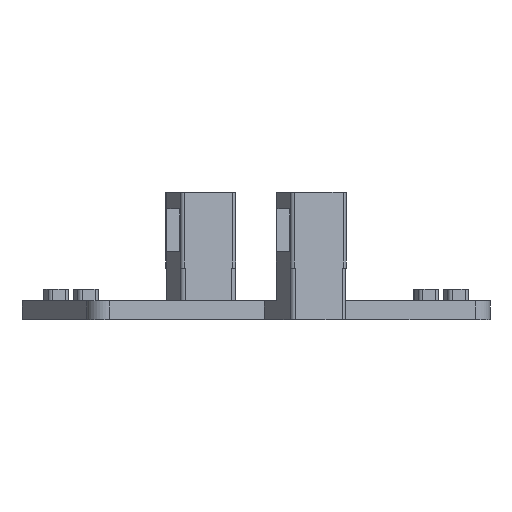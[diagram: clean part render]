
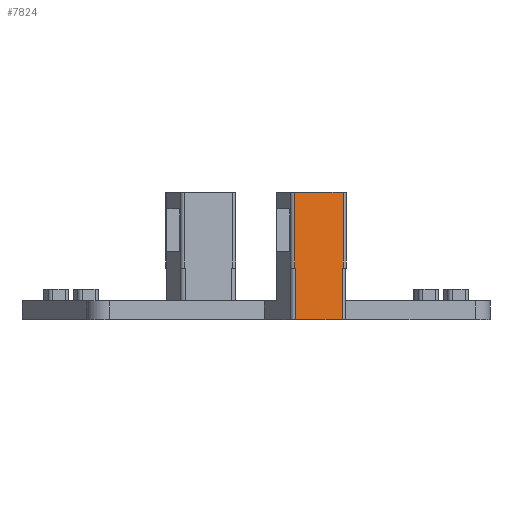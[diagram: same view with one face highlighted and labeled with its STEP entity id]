
A CAD part, front view. The second image highlights one B-rep face of the part: STEP entity #7824.
In plain terms, the highlighted planar face has unit normal (0.208, -0.978, 0).
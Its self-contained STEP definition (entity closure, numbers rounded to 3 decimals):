
#100 = PLANE('',#101);
#101 = AXIS2_PLACEMENT_3D('',#102,#103,#104);
#102 = CARTESIAN_POINT('',(9.299,-24.946,18.8));
#103 = DIRECTION('',(0.,0.,1.));
#104 = DIRECTION('',(0.978,0.208,0.));
#2364 = VERTEX_POINT('',#2365);
#2365 = CARTESIAN_POINT('',(30.956,-34.247,18.8));
#2380 = CYLINDRICAL_SURFACE('',#2381,0.5);
#2381 = AXIS2_PLACEMENT_3D('',#2382,#2383,#2384);
#2382 = CARTESIAN_POINT('',(30.852,-33.758,18.8));
#2383 = DIRECTION('',(0.,0.,1.));
#2384 = DIRECTION('',(-0.978,-0.208,0.));
#2392 = EDGE_CURVE('',#2364,#2393,#2395,.T.);
#2393 = VERTEX_POINT('',#2394);
#2394 = CARTESIAN_POINT('',(35.847,-33.207,18.8));
#2395 = SURFACE_CURVE('',#2396,(#2400,#2407),.PCURVE_S1.);
#2396 = LINE('',#2397,#2398);
#2397 = CARTESIAN_POINT('',(30.467,-34.351,18.8));
#2398 = VECTOR('',#2399,1.);
#2399 = DIRECTION('',(0.978,0.208,0.));
#2400 = PCURVE('',#100,#2401);
#2401 = DEFINITIONAL_REPRESENTATION('',(#2402),#2406);
#2402 = LINE('',#2403,#2404);
#2403 = CARTESIAN_POINT('',(18.75,-13.6));
#2404 = VECTOR('',#2405,1.);
#2405 = DIRECTION('',(1.,0.));
#2406 = ( GEOMETRIC_REPRESENTATION_CONTEXT(2) 
PARAMETRIC_REPRESENTATION_CONTEXT() REPRESENTATION_CONTEXT('2D SPACE',''
  ) );
#2407 = PCURVE('',#2408,#2413);
#2408 = PLANE('',#2409);
#2409 = AXIS2_PLACEMENT_3D('',#2410,#2411,#2412);
#2410 = CARTESIAN_POINT('',(30.467,-34.351,18.8));
#2411 = DIRECTION('',(-0.208,0.978,0.));
#2412 = DIRECTION('',(0.,0.,1.));
#2413 = DEFINITIONAL_REPRESENTATION('',(#2414),#2418);
#2414 = LINE('',#2415,#2416);
#2415 = CARTESIAN_POINT('',(0.,0.));
#2416 = VECTOR('',#2417,1.);
#2417 = DIRECTION('',(0.,1.));
#2418 = ( GEOMETRIC_REPRESENTATION_CONTEXT(2) 
PARAMETRIC_REPRESENTATION_CONTEXT() REPRESENTATION_CONTEXT('2D SPACE',''
  ) );
#2441 = CYLINDRICAL_SURFACE('',#2442,0.5);
#2442 = AXIS2_PLACEMENT_3D('',#2443,#2444,#2445);
#2443 = CARTESIAN_POINT('',(35.743,-32.718,18.8));
#2444 = DIRECTION('',(0.,0.,1.));
#2445 = DIRECTION('',(0.978,0.208,0.));
#4717 = PLANE('',#4718);
#4718 = AXIS2_PLACEMENT_3D('',#4719,#4720,#4721);
#4719 = CARTESIAN_POINT('',(36.336,-33.103,32.25));
#4720 = DIRECTION('',(0.,0.,1.));
#4721 = DIRECTION('',(-0.208,0.978,0.));
#4745 = CYLINDRICAL_SURFACE('',#4746,0.4);
#4746 = AXIS2_PLACEMENT_3D('',#4747,#4748,#4749);
#4747 = CARTESIAN_POINT('',(30.775,-33.876,24.25));
#4748 = DIRECTION('',(0.,0.,1.));
#4749 = DIRECTION('',(0.208,-0.978,0.));
#4773 = PLANE('',#4774);
#4774 = AXIS2_PLACEMENT_3D('',#4775,#4776,#4777);
#4775 = CARTESIAN_POINT('',(36.336,-33.103,24.25));
#4776 = DIRECTION('',(0.,0.,1.));
#4777 = DIRECTION('',(-0.208,0.978,0.));
#6868 = CYLINDRICAL_SURFACE('',#6869,0.4);
#6869 = AXIS2_PLACEMENT_3D('',#6870,#6871,#6872);
#6870 = CARTESIAN_POINT('',(35.861,-32.795,24.25));
#6871 = DIRECTION('',(0.,0.,1.));
#6872 = DIRECTION('',(0.208,-0.978,0.));
#6896 = PLANE('',#6897);
#6897 = AXIS2_PLACEMENT_3D('',#6898,#6899,#6900);
#6898 = CARTESIAN_POINT('',(36.336,-33.103,24.25));
#6899 = DIRECTION('',(0.,0.,1.));
#6900 = DIRECTION('',(-0.208,0.978,0.));
#7551 = EDGE_CURVE('',#2393,#7552,#7554,.T.);
#7552 = VERTEX_POINT('',#7553);
#7553 = CARTESIAN_POINT('',(35.847,-33.207,24.25));
#7554 = SURFACE_CURVE('',#7555,(#7559,#7566),.PCURVE_S1.);
#7555 = LINE('',#7556,#7557);
#7556 = CARTESIAN_POINT('',(35.847,-33.207,18.8));
#7557 = VECTOR('',#7558,1.);
#7558 = DIRECTION('',(0.,0.,1.));
#7559 = PCURVE('',#2441,#7560);
#7560 = DEFINITIONAL_REPRESENTATION('',(#7561),#7565);
#7561 = LINE('',#7562,#7563);
#7562 = CARTESIAN_POINT('',(-1.571,0.));
#7563 = VECTOR('',#7564,1.);
#7564 = DIRECTION('',(-0.,1.));
#7565 = ( GEOMETRIC_REPRESENTATION_CONTEXT(2) 
PARAMETRIC_REPRESENTATION_CONTEXT() REPRESENTATION_CONTEXT('2D SPACE',''
  ) );
#7566 = PCURVE('',#2408,#7567);
#7567 = DEFINITIONAL_REPRESENTATION('',(#7568),#7572);
#7568 = LINE('',#7569,#7570);
#7569 = CARTESIAN_POINT('',(0.,5.5));
#7570 = VECTOR('',#7571,1.);
#7571 = DIRECTION('',(1.,0.));
#7572 = ( GEOMETRIC_REPRESENTATION_CONTEXT(2) 
PARAMETRIC_REPRESENTATION_CONTEXT() REPRESENTATION_CONTEXT('2D SPACE',''
  ) );
#7633 = EDGE_CURVE('',#2364,#7634,#7636,.T.);
#7634 = VERTEX_POINT('',#7635);
#7635 = CARTESIAN_POINT('',(30.956,-34.247,24.25));
#7636 = SURFACE_CURVE('',#7637,(#7641,#7648),.PCURVE_S1.);
#7637 = LINE('',#7638,#7639);
#7638 = CARTESIAN_POINT('',(30.956,-34.247,18.8));
#7639 = VECTOR('',#7640,1.);
#7640 = DIRECTION('',(0.,0.,1.));
#7641 = PCURVE('',#2380,#7642);
#7642 = DEFINITIONAL_REPRESENTATION('',(#7643),#7647);
#7643 = LINE('',#7644,#7645);
#7644 = CARTESIAN_POINT('',(1.571,0.));
#7645 = VECTOR('',#7646,1.);
#7646 = DIRECTION('',(0.,1.));
#7647 = ( GEOMETRIC_REPRESENTATION_CONTEXT(2) 
PARAMETRIC_REPRESENTATION_CONTEXT() REPRESENTATION_CONTEXT('2D SPACE',''
  ) );
#7648 = PCURVE('',#2408,#7649);
#7649 = DEFINITIONAL_REPRESENTATION('',(#7650),#7654);
#7650 = LINE('',#7651,#7652);
#7651 = CARTESIAN_POINT('',(0.,0.5));
#7652 = VECTOR('',#7653,1.);
#7653 = DIRECTION('',(1.,0.));
#7654 = ( GEOMETRIC_REPRESENTATION_CONTEXT(2) 
PARAMETRIC_REPRESENTATION_CONTEXT() REPRESENTATION_CONTEXT('2D SPACE',''
  ) );
#7824 = ADVANCED_FACE('',(#7825),#2408,.F.);
#7825 = FACE_BOUND('',#7826,.F.);
#7826 = EDGE_LOOP('',(#7827,#7828,#7829,#7852,#7875,#7898,#7921,#7942));
#7827 = ORIENTED_EDGE('',*,*,#2392,.F.);
#7828 = ORIENTED_EDGE('',*,*,#7633,.T.);
#7829 = ORIENTED_EDGE('',*,*,#7830,.T.);
#7830 = EDGE_CURVE('',#7634,#7831,#7833,.T.);
#7831 = VERTEX_POINT('',#7832);
#7832 = CARTESIAN_POINT('',(30.858,-34.268,24.25));
#7833 = SURFACE_CURVE('',#7834,(#7838,#7845),.PCURVE_S1.);
#7834 = LINE('',#7835,#7836);
#7835 = CARTESIAN_POINT('',(36.336,-33.103,24.25));
#7836 = VECTOR('',#7837,1.);
#7837 = DIRECTION('',(-0.978,-0.208,0.));
#7838 = PCURVE('',#2408,#7839);
#7839 = DEFINITIONAL_REPRESENTATION('',(#7840),#7844);
#7840 = LINE('',#7841,#7842);
#7841 = CARTESIAN_POINT('',(5.45,6.));
#7842 = VECTOR('',#7843,1.);
#7843 = DIRECTION('',(0.,-1.));
#7844 = ( GEOMETRIC_REPRESENTATION_CONTEXT(2) 
PARAMETRIC_REPRESENTATION_CONTEXT() REPRESENTATION_CONTEXT('2D SPACE',''
  ) );
#7845 = PCURVE('',#4773,#7846);
#7846 = DEFINITIONAL_REPRESENTATION('',(#7847),#7851);
#7847 = LINE('',#7848,#7849);
#7848 = CARTESIAN_POINT('',(0.,0.));
#7849 = VECTOR('',#7850,1.);
#7850 = DIRECTION('',(0.,1.));
#7851 = ( GEOMETRIC_REPRESENTATION_CONTEXT(2) 
PARAMETRIC_REPRESENTATION_CONTEXT() REPRESENTATION_CONTEXT('2D SPACE',''
  ) );
#7852 = ORIENTED_EDGE('',*,*,#7853,.T.);
#7853 = EDGE_CURVE('',#7831,#7854,#7856,.T.);
#7854 = VERTEX_POINT('',#7855);
#7855 = CARTESIAN_POINT('',(30.858,-34.268,32.25));
#7856 = SURFACE_CURVE('',#7857,(#7861,#7868),.PCURVE_S1.);
#7857 = LINE('',#7858,#7859);
#7858 = CARTESIAN_POINT('',(30.858,-34.268,24.25));
#7859 = VECTOR('',#7860,1.);
#7860 = DIRECTION('',(0.,0.,1.));
#7861 = PCURVE('',#2408,#7862);
#7862 = DEFINITIONAL_REPRESENTATION('',(#7863),#7867);
#7863 = LINE('',#7864,#7865);
#7864 = CARTESIAN_POINT('',(5.45,0.4));
#7865 = VECTOR('',#7866,1.);
#7866 = DIRECTION('',(1.,0.));
#7867 = ( GEOMETRIC_REPRESENTATION_CONTEXT(2) 
PARAMETRIC_REPRESENTATION_CONTEXT() REPRESENTATION_CONTEXT('2D SPACE',''
  ) );
#7868 = PCURVE('',#4745,#7869);
#7869 = DEFINITIONAL_REPRESENTATION('',(#7870),#7874);
#7870 = LINE('',#7871,#7872);
#7871 = CARTESIAN_POINT('',(-0.,0.));
#7872 = VECTOR('',#7873,1.);
#7873 = DIRECTION('',(-0.,1.));
#7874 = ( GEOMETRIC_REPRESENTATION_CONTEXT(2) 
PARAMETRIC_REPRESENTATION_CONTEXT() REPRESENTATION_CONTEXT('2D SPACE',''
  ) );
#7875 = ORIENTED_EDGE('',*,*,#7876,.F.);
#7876 = EDGE_CURVE('',#7877,#7854,#7879,.T.);
#7877 = VERTEX_POINT('',#7878);
#7878 = CARTESIAN_POINT('',(35.944,-33.186,32.25));
#7879 = SURFACE_CURVE('',#7880,(#7884,#7891),.PCURVE_S1.);
#7880 = LINE('',#7881,#7882);
#7881 = CARTESIAN_POINT('',(36.336,-33.103,32.25));
#7882 = VECTOR('',#7883,1.);
#7883 = DIRECTION('',(-0.978,-0.208,0.));
#7884 = PCURVE('',#2408,#7885);
#7885 = DEFINITIONAL_REPRESENTATION('',(#7886),#7890);
#7886 = LINE('',#7887,#7888);
#7887 = CARTESIAN_POINT('',(13.45,6.));
#7888 = VECTOR('',#7889,1.);
#7889 = DIRECTION('',(0.,-1.));
#7890 = ( GEOMETRIC_REPRESENTATION_CONTEXT(2) 
PARAMETRIC_REPRESENTATION_CONTEXT() REPRESENTATION_CONTEXT('2D SPACE',''
  ) );
#7891 = PCURVE('',#4717,#7892);
#7892 = DEFINITIONAL_REPRESENTATION('',(#7893),#7897);
#7893 = LINE('',#7894,#7895);
#7894 = CARTESIAN_POINT('',(0.,0.));
#7895 = VECTOR('',#7896,1.);
#7896 = DIRECTION('',(0.,1.));
#7897 = ( GEOMETRIC_REPRESENTATION_CONTEXT(2) 
PARAMETRIC_REPRESENTATION_CONTEXT() REPRESENTATION_CONTEXT('2D SPACE',''
  ) );
#7898 = ORIENTED_EDGE('',*,*,#7899,.F.);
#7899 = EDGE_CURVE('',#7900,#7877,#7902,.T.);
#7900 = VERTEX_POINT('',#7901);
#7901 = CARTESIAN_POINT('',(35.944,-33.186,24.25));
#7902 = SURFACE_CURVE('',#7903,(#7907,#7914),.PCURVE_S1.);
#7903 = LINE('',#7904,#7905);
#7904 = CARTESIAN_POINT('',(35.944,-33.186,24.25));
#7905 = VECTOR('',#7906,1.);
#7906 = DIRECTION('',(0.,0.,1.));
#7907 = PCURVE('',#2408,#7908);
#7908 = DEFINITIONAL_REPRESENTATION('',(#7909),#7913);
#7909 = LINE('',#7910,#7911);
#7910 = CARTESIAN_POINT('',(5.45,5.6));
#7911 = VECTOR('',#7912,1.);
#7912 = DIRECTION('',(1.,0.));
#7913 = ( GEOMETRIC_REPRESENTATION_CONTEXT(2) 
PARAMETRIC_REPRESENTATION_CONTEXT() REPRESENTATION_CONTEXT('2D SPACE',''
  ) );
#7914 = PCURVE('',#6868,#7915);
#7915 = DEFINITIONAL_REPRESENTATION('',(#7916),#7920);
#7916 = LINE('',#7917,#7918);
#7917 = CARTESIAN_POINT('',(0.,0.));
#7918 = VECTOR('',#7919,1.);
#7919 = DIRECTION('',(0.,1.));
#7920 = ( GEOMETRIC_REPRESENTATION_CONTEXT(2) 
PARAMETRIC_REPRESENTATION_CONTEXT() REPRESENTATION_CONTEXT('2D SPACE',''
  ) );
#7921 = ORIENTED_EDGE('',*,*,#7922,.T.);
#7922 = EDGE_CURVE('',#7900,#7552,#7923,.T.);
#7923 = SURFACE_CURVE('',#7924,(#7928,#7935),.PCURVE_S1.);
#7924 = LINE('',#7925,#7926);
#7925 = CARTESIAN_POINT('',(36.336,-33.103,24.25));
#7926 = VECTOR('',#7927,1.);
#7927 = DIRECTION('',(-0.978,-0.208,0.));
#7928 = PCURVE('',#2408,#7929);
#7929 = DEFINITIONAL_REPRESENTATION('',(#7930),#7934);
#7930 = LINE('',#7931,#7932);
#7931 = CARTESIAN_POINT('',(5.45,6.));
#7932 = VECTOR('',#7933,1.);
#7933 = DIRECTION('',(0.,-1.));
#7934 = ( GEOMETRIC_REPRESENTATION_CONTEXT(2) 
PARAMETRIC_REPRESENTATION_CONTEXT() REPRESENTATION_CONTEXT('2D SPACE',''
  ) );
#7935 = PCURVE('',#6896,#7936);
#7936 = DEFINITIONAL_REPRESENTATION('',(#7937),#7941);
#7937 = LINE('',#7938,#7939);
#7938 = CARTESIAN_POINT('',(0.,0.));
#7939 = VECTOR('',#7940,1.);
#7940 = DIRECTION('',(0.,1.));
#7941 = ( GEOMETRIC_REPRESENTATION_CONTEXT(2) 
PARAMETRIC_REPRESENTATION_CONTEXT() REPRESENTATION_CONTEXT('2D SPACE',''
  ) );
#7942 = ORIENTED_EDGE('',*,*,#7551,.F.);
